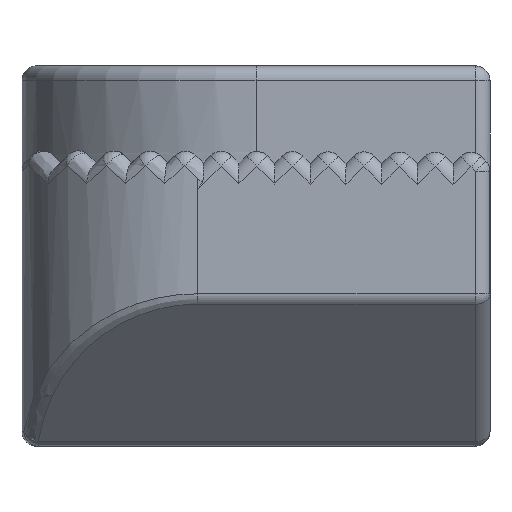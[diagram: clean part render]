
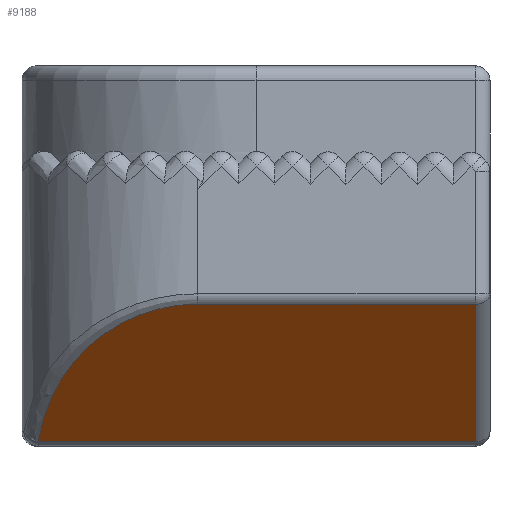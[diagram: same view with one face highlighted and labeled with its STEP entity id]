
A CAD part, left-side view. The second image highlights one B-rep face of the part: STEP entity #9188.
In plain terms, the highlighted planar face has unit normal (-0.707, 0, -0.707).
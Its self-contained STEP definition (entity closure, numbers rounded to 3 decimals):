
#483 = LINE ( 'NONE', #4874, #4229 ) ;
#634 = ORIENTED_EDGE ( 'NONE', *, *, #7383, .T. ) ;
#704 = VECTOR ( 'NONE', #6951, 1000. ) ;
#757 = CARTESIAN_POINT ( 'NONE',  ( -25.88, 9.427, 2.427 ) ) ;
#1147 = DIRECTION ( 'NONE',  ( -0.707, 0., 0.707 ) ) ;
#1399 = CARTESIAN_POINT ( 'NONE',  ( -24.943, 8.942, 1.49 ) ) ;
#1841 = VERTEX_POINT ( 'NONE', #6092 ) ;
#1998 = EDGE_CURVE ( 'NONE', #7582, #2801, #4464, .T. ) ;
#2466 = CARTESIAN_POINT ( 'NONE',  ( -23.527, 9.427, 0.073 ) ) ;
#2710 = EDGE_CURVE ( 'NONE', #2801, #1841, #483, .T. ) ;
#2801 = VERTEX_POINT ( 'NONE', #6554 ) ;
#3022 = CARTESIAN_POINT ( 'NONE',  ( -23.527, 9.148, 0.073 ) ) ;
#3404 = LINE ( 'NONE', #757, #9143 ) ;
#3589 = ORIENTED_EDGE ( 'NONE', *, *, #5018, .T. ) ;
#3731 = DIRECTION ( 'NONE',  ( 0.707, 0., 0.707 ) ) ;
#4149 = CARTESIAN_POINT ( 'NONE',  ( -25.88, 6.427, 2.427 ) ) ;
#4229 = VECTOR ( 'NONE', #1147, 1000. ) ;
#4345 = ORIENTED_EDGE ( 'NONE', *, *, #1998, .T. ) ;
#4464 = LINE ( 'NONE', #2466, #704 ) ;
#4471 = EDGE_LOOP ( 'NONE', ( #634, #4345, #9642, #3589 ) ) ;
#4586 = FACE_OUTER_BOUND ( 'NONE', #4471, .T. ) ;
#4795 =( BOUNDED_CURVE ( )  B_SPLINE_CURVE ( 3, ( #9420, #5838, #1399, #6626 ),
 .UNSPECIFIED., .F., .F. ) 
 B_SPLINE_CURVE_WITH_KNOTS ( ( 4, 4 ),
 ( 3.142, 4.568 ),
 .UNSPECIFIED. ) 
 CURVE ( )  GEOMETRIC_REPRESENTATION_ITEM ( )  RATIONAL_B_SPLINE_CURVE ( ( 1., 0.838, 0.838, 1. ) ) 
 REPRESENTATION_ITEM ( '' )  );
#4874 = CARTESIAN_POINT ( 'NONE',  ( -25.953, 1.677, 2.5 ) ) ;
#5018 = EDGE_CURVE ( 'NONE', #1841, #6181, #3404, .T. ) ;
#5838 = CARTESIAN_POINT ( 'NONE',  ( -25.88, 7.859, 2.427 ) ) ;
#6092 = CARTESIAN_POINT ( 'NONE',  ( -25.88, 1.677, 2.427 ) ) ;
#6181 = VERTEX_POINT ( 'NONE', #4149 ) ;
#6554 = CARTESIAN_POINT ( 'NONE',  ( -23.527, 1.677, 0.073 ) ) ;
#6626 = CARTESIAN_POINT ( 'NONE',  ( -23.527, 9.148, 0.073 ) ) ;
#6699 = PLANE ( 'NONE',  #8632 ) ;
#6720 = DIRECTION ( 'NONE',  ( 0., 1., 0. ) ) ;
#6951 = DIRECTION ( 'NONE',  ( 0., -1., 0. ) ) ;
#7383 = EDGE_CURVE ( 'NONE', #6181, #7582, #4795, .T. ) ;
#7418 = CARTESIAN_POINT ( 'NONE',  ( -25.953, 9.427, 2.5 ) ) ;
#7582 = VERTEX_POINT ( 'NONE', #3022 ) ;
#8632 = AXIS2_PLACEMENT_3D ( 'NONE', #7418, #3731, #8966 ) ;
#8966 = DIRECTION ( 'NONE',  ( 0.707, 0., -0.707 ) ) ;
#9143 = VECTOR ( 'NONE', #6720, 1000. ) ;
#9188 = ADVANCED_FACE ( 'NONE', ( #4586 ), #6699, .F. ) ;
#9420 = CARTESIAN_POINT ( 'NONE',  ( -25.88, 6.427, 2.427 ) ) ;
#9642 = ORIENTED_EDGE ( 'NONE', *, *, #2710, .T. ) ;
